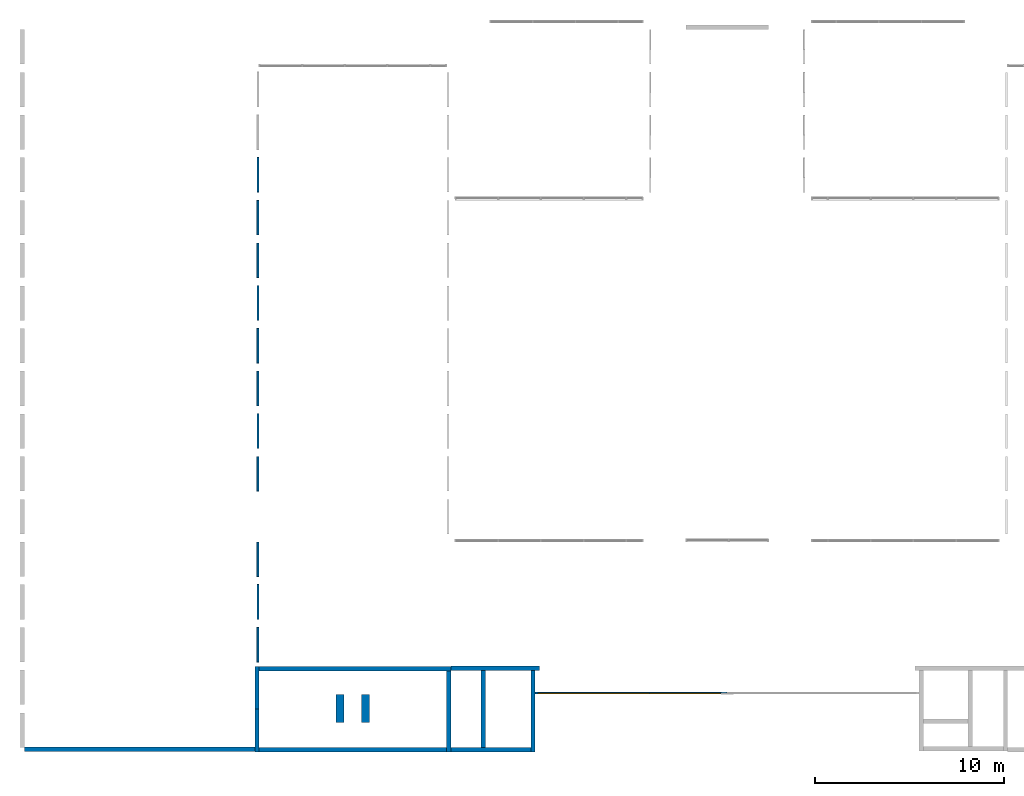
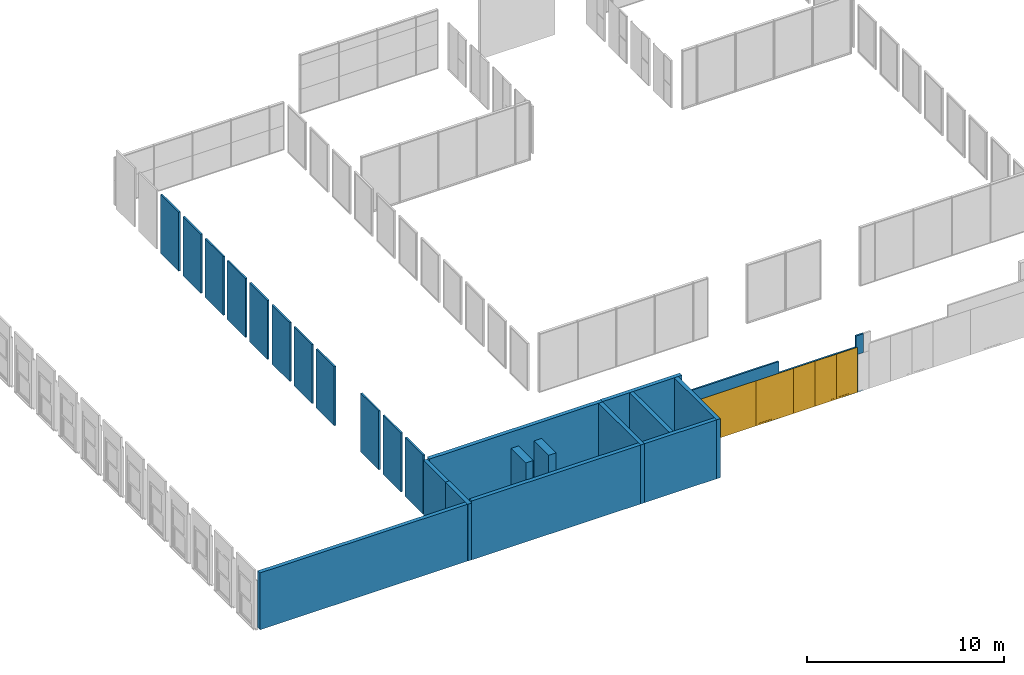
# One storey, part 10 of 15: 24 walls, 5 windows, 7 openings.
"""IFC2X3 building model written with IfcOpenShell, lengths in millimetres."""

from ifc_helpers import new_model, entity, si_unit, converted_unit, derived_unit, direction, frame, frame_2d, origin, origin_2d_with_axis, place, context, subcontext, project, spatial, polyline, rectangle, outline, extrude, clip, bounded_halfspace, source, transform, mapped, material, material_list, layer, layer_set, layer_usage, type_object, type_shapes, element, fill, save


model = new_model("IFC2X3")

# Units and contexts
model_context = context("Model", 3, precision=0.01, world=origin(), true_north=direction((6.12303176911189e-17, 1.0)))
body_context = subcontext(model_context, "Body", "Model", "MODEL_VIEW")
ifc_project = project(units=[si_unit("LENGTHUNIT", "METRE", prefix="MILLI"), si_unit("AREAUNIT", "SQUARE_METRE"), si_unit("VOLUMEUNIT", "CUBIC_METRE"), converted_unit("PLANEANGLEUNIT", "DEGREE", entity("IfcRatioMeasure", 0.0174532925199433), si_unit("PLANEANGLEUNIT", "RADIAN"), dimensions=[0, 0, 0, 0, 0, 0, 0]), si_unit("MASSUNIT", "GRAM", prefix="KILO"), derived_unit("MASSDENSITYUNIT", [(si_unit("MASSUNIT", "GRAM", prefix="KILO"), 1), (si_unit("LENGTHUNIT", "METRE"), -3)]), derived_unit("MOMENTOFINERTIAUNIT", [(si_unit("LENGTHUNIT", "METRE"), 4)]), si_unit("TIMEUNIT", "SECOND"), si_unit("FREQUENCYUNIT", "HERTZ"), si_unit("THERMODYNAMICTEMPERATUREUNIT", "DEGREE_CELSIUS"), derived_unit("THERMALTRANSMITTANCEUNIT", [(si_unit("MASSUNIT", "GRAM", prefix="KILO"), 1), (si_unit("THERMODYNAMICTEMPERATUREUNIT", "KELVIN"), -1), (si_unit("TIMEUNIT", "SECOND"), -3)]), derived_unit("VOLUMETRICFLOWRATEUNIT", [(si_unit("LENGTHUNIT", "METRE"), 3), (si_unit("TIMEUNIT", "SECOND"), -1)]), si_unit("ELECTRICCURRENTUNIT", "AMPERE"), si_unit("ELECTRICVOLTAGEUNIT", "VOLT"), si_unit("POWERUNIT", "WATT"), si_unit("FORCEUNIT", "NEWTON", prefix="KILO"), si_unit("ILLUMINANCEUNIT", "LUX"), si_unit("LUMINOUSFLUXUNIT", "LUMEN"), si_unit("LUMINOUSINTENSITYUNIT", "CANDELA"), derived_unit("USERDEFINED", [(si_unit("MASSUNIT", "GRAM", prefix="KILO"), -1), (si_unit("LENGTHUNIT", "METRE"), -2), (si_unit("TIMEUNIT", "SECOND"), 3), (si_unit("LUMINOUSFLUXUNIT", "LUMEN"), 1)]), derived_unit("LINEARVELOCITYUNIT", [(si_unit("LENGTHUNIT", "METRE"), 1), (si_unit("TIMEUNIT", "SECOND"), -1)]), si_unit("PRESSUREUNIT", "PASCAL"), derived_unit("USERDEFINED", [(si_unit("LENGTHUNIT", "METRE"), -2), (si_unit("MASSUNIT", "GRAM", prefix="KILO"), 1), (si_unit("TIMEUNIT", "SECOND"), -2)]), derived_unit("LINEARFORCEUNIT", [(si_unit("MASSUNIT", "GRAM", prefix="KILO"), 1), (si_unit("LENGTHUNIT", "METRE"), 1), (si_unit("TIMEUNIT", "SECOND"), -2), (si_unit("LENGTHUNIT", "METRE"), -1)]), derived_unit("PLANARFORCEUNIT", [(si_unit("MASSUNIT", "GRAM", prefix="KILO"), 1), (si_unit("LENGTHUNIT", "METRE"), 1), (si_unit("TIMEUNIT", "SECOND"), -2), (si_unit("LENGTHUNIT", "METRE"), -2)])], contexts=[model_context])

# Site, building, storey
site_placement = place(None, frame((10627.5135316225, 21939.0796949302, 0.0)))
site = spatial("IfcSite", under=ifc_project, at=site_placement, Name="Default", CompositionType="ELEMENT")
building_placement = place(site_placement, origin())
building = spatial("IfcBuilding", under=site, at=building_placement, CompositionType="ELEMENT")
storey_placement = place(building_placement, origin())
storey = spatial("IfcBuildingStorey", under=building, at=storey_placement, Name="RDC", CompositionType="ELEMENT", Elevation=0.0)

# Wall, openings, windows
ifc_material_1 = material(Name="Paint - White Lining")
ifc_layer_1 = layer(ifc_material_1, 3.0)
ifc_material_2 = material(Name="Concrete Masonry Units")
ifc_layer_2 = layer(ifc_material_2, 94.0)
ifc_layer_3 = layer(ifc_material_1, 3.0)
ifc_layer_set_1 = layer_set([ifc_layer_1, ifc_layer_2, ifc_layer_3], Name="Basic Wall:Wall-Int 100")
ifc_layer_usage_1 = layer_usage(ifc_layer_set_1, "AXIS2", "NEGATIVE", 50.0)
wall_type_1 = type_object("IfcWallType", Name="Basic Wall:Wall-Int 100", PredefinedType="STANDARD", material=ifc_layer_set_1)
wall_1_placement = place(storey_placement, frame((16419.865600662, -18847.9430237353, 0.0)))
wall_1 = element("IfcWallStandardCase", 1, at=wall_1_placement, inside=storey, type_object=wall_type_1, material=ifc_layer_usage_1, Name="Basic Wall:Wall-Int 100", ObjectType="Basic Wall:Wall-Int 100", context=body_context, shape_type="Clipping", body=[
    clip(extrude(rectangle(XDim=10157.6208677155, YDim=99.9999999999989, at=frame_2d((5078.81043385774, 3.76587649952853e-13), x_axis=(-1.0, 0.0))), origin(), (0.0, 0.0, 1.0), 3530.0), bounded_halfspace(frame((9942.62086771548, 50.0, 3530.0), z_axis=(0.0, 0.0, -1.0), x_axis=(0.0, 1.0, 0.0)), True, frame((9942.62086771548, 50.0, 3530.0)), polyline([(0.0, 0.0), (-226.024865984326, 0.0), (-226.024865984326, -48.3642208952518), (0.0, -48.3642208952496), (0.0, 0.0)]))),
])
opening_1_placement = place(wall_1_placement, origin())
element("IfcOpeningElement", 2, at=opening_1_placement, cuts=wall_1, Name="Basic Wall:Wall-Int 100", ObjectType="Opening", context=body_context, shape_type="SweptSolid", body=[
    extrude(rectangle(XDim=2340.0, YDim=640.000000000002, at=frame_2d((0.0, 0.0), x_axis=(0.0, 1.0))), frame((10159.2417354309, -1474.0, 1172.0), z_axis=(0.0, 1.0, 0.0), x_axis=(-1.0, 0.0, 0.0)), (0.0, 0.0, 1.0), 3048.0),
])
opening_2_placement = place(wall_1_placement, origin())
element("IfcOpeningElement", 3, at=opening_2_placement, cuts=wall_1, Name="Basic Wall:Wall-Int 100", ObjectType="Opening", context=body_context, shape_type="SweptSolid", body=[
    extrude(rectangle(XDim=8034.27016951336, YDim=4520.0, at=frame_2d((6.82121026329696e-13, -2.27373675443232e-12), x_axis=(1.0, 0.0))), frame((7456.59600173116, -202.400000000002, 6832.86491524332), z_axis=(0.0, 1.0, 0.0), x_axis=(0.0, 0.0, 1.0)), (0.0, 0.0, 1.0), 404.800000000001),
])
opening_3_placement = place(wall_1_placement, frame((6060.0, 50.0, 2.0)))
opening_3 = element("IfcOpeningElement", 4, at=opening_3_placement, cuts=wall_1, Name="Entrance windows:Short:1", ObjectType="Opening", context=body_context, shape_type="SweptSolid", body=[
    extrude(rectangle(XDim=2800.0, YDim=2200.0, at=frame_2d((1400.0, 1100.0), x_axis=(1.0, 0.0))), frame((0.0, 0.0, 0.0), z_axis=(0.0, -1.0, 0.0), x_axis=(0.0, 0.0, 1.0)), (0.0, 0.0, 1.0), 100.0),
])
opening_4_placement = place(wall_1_placement, frame((3860.0, 50.0, 2.0)))
opening_4 = element("IfcOpeningElement", 5, at=opening_4_placement, cuts=wall_1, Name="Entrance windows:Entrance windows:1", ObjectType="Opening", context=body_context, shape_type="SweptSolid", body=[
    extrude(rectangle(XDim=2800.0, YDim=3700.0, at=frame_2d((1400.0, 1850.0), x_axis=(1.0, 0.0))), frame((0.0, 0.0, 0.0), z_axis=(0.0, -1.0, 0.0), x_axis=(0.0, 0.0, 1.0)), (0.0, 0.0, 1.0), 100.0),
])
opening_5_placement = place(wall_1_placement, frame((9818.50000000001, 50.0, 2.0)))
opening_5 = element("IfcOpeningElement", 6, at=opening_5_placement, cuts=wall_1, Name="Entrance windows:Door:1", ObjectType="Opening", context=body_context, shape_type="SweptSolid", body=[
    extrude(rectangle(XDim=2800.0, YDim=1250.0, at=frame_2d((1400.0, 625.000000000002), x_axis=(1.0, 0.0))), frame((0.0, 0.0, 0.0), z_axis=(0.0, -1.0, 0.0), x_axis=(0.0, 0.0, 1.0)), (0.0, 0.0, 1.0), 100.0),
])
opening_6_placement = place(wall_1_placement, frame((8566.0, 50.0, 2.0)))
opening_6 = element("IfcOpeningElement", 7, at=opening_6_placement, cuts=wall_1, Name="Entrance windows:Door:1", ObjectType="Opening", context=body_context, shape_type="SweptSolid", body=[
    extrude(rectangle(XDim=2800.0, YDim=1250.0, at=frame_2d((1400.0, 625.000000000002), x_axis=(1.0, 0.0))), frame((0.0, 0.0, 0.0), z_axis=(0.0, -1.0, 0.0), x_axis=(0.0, 0.0, 1.0)), (0.0, 0.0, 1.0), 100.0),
])
opening_7_placement = place(wall_1_placement, frame((7313.0, 50.0, 2.0)))
opening_7 = element("IfcOpeningElement", 8, at=opening_7_placement, cuts=wall_1, Name="Entrance windows:Door:1", ObjectType="Opening", context=body_context, shape_type="SweptSolid", body=[
    extrude(rectangle(XDim=2800.0, YDim=1250.0, at=frame_2d((1400.0, 625.000000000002), x_axis=(1.0, 0.0))), frame((0.0, 0.0, 0.0), z_axis=(0.0, -1.0, 0.0), x_axis=(0.0, 0.0, 1.0)), (0.0, 0.0, 1.0), 100.0),
])
ifc_material_3 = material(Name="Glass")
ifc_material_4 = material(Name="Stainless Steel, Brushed")
ifc_material_list_1 = material_list([ifc_material_3, ifc_material_4])
ifc_material_list_2 = material_list([ifc_material_3, ifc_material_4])
window_style_1 = type_object("IfcWindowStyle", Name="Entrance windows:Entrance windows", ConstructionType="NOTDEFINED", OperationType="NOTDEFINED", ParameterTakesPrecedence=False, Sizeable=False, material=ifc_material_list_2)
shared_shape_1 = source(origin(), body_context, "Body", "SweptSolid", [
    extrude(outline(polyline([(-1750.0, -1300.0), (1750.0, -1300.0), (1750.0, 1300.0), (-1750.0, 1300.0), (-1750.0, -1300.0)]), holes=[polyline([(1747.0, 1297.0), (1747.0, -1297.0), (-1747.0, -1297.0), (-1747.0, 1297.0), (1747.0, 1297.0)])]), frame((1850.0, 70.0, 1400.0), z_axis=(0.0, 1.0, 0.0), x_axis=(1.0, 0.0, 0.0)), (0.0, 0.0, 1.0), 3.0),
    extrude(rectangle(XDim=3.0, YDim=3494.0, at=origin_2d_with_axis()), frame((1850.0, 71.5000000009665, 103.0), z_axis=(0.0, 0.0, 1.0), x_axis=(0.0, 1.0, 0.0)), (0.0, 0.0, 1.0), 2594.0),
    extrude(outline(polyline([(-1750.0, -1300.0), (1750.0, -1300.0), (1750.0, 1300.0), (-1750.0, 1300.0), (-1750.0, -1300.0)]), holes=[polyline([(1747.0, 1297.0), (1747.0, -1297.0), (-1747.0, -1297.0), (-1747.0, 1297.0), (1747.0, 1297.0)])]), frame((1850.0, 94.0, 1400.0), z_axis=(0.0, 1.0, 0.0), x_axis=(1.0, 0.0, 0.0)), (0.0, 0.0, 1.0), 3.0),
    extrude(rectangle(XDim=3.0, YDim=3494.0, at=origin_2d_with_axis()), frame((1850.0, 95.5000000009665, 103.0), z_axis=(0.0, 0.0, 1.0), x_axis=(0.0, 1.0, 0.0)), (0.0, 0.0, 1.0), 2594.0),
    extrude(outline(polyline([(-1850.0, -1400.0), (1850.0, -1400.0), (1850.0, 1400.0), (-1850.0, 1400.0), (-1850.0, -1400.0)]), holes=[polyline([(-1750.0, -1300.0), (-1750.0, 1300.0), (1750.0, 1300.0), (1750.0, -1300.0), (-1750.0, -1300.0)])]), frame((1850.0, 50.0, 1400.0), z_axis=(0.0, 1.0, 0.0), x_axis=(1.0, 0.0, 0.0)), (0.0, 0.0, 1.0), 50.0),
])
type_shapes(window_style_1, [shared_shape_1])
window_1_placement = place(opening_4_placement, frame((0.0, 0.0, 0.0), z_axis=(0.0, 0.0, 1.0), x_axis=(-1.0, 0.0, 0.0)))
window_1 = element("IfcWindow", 9, at=window_1_placement, inside=storey, type_object=window_style_1, material=ifc_material_list_1, Name="Entrance windows:Entrance windows", ObjectType="Entrance windows:Entrance windows", OverallHeight=2800.0, OverallWidth=3700.0, context=body_context, shape_type="MappedRepresentation", body=[
    mapped(shared_shape_1, transform((0.0, 0.0, 0.0), scale=1.0)),
])
fill(opening_4, window_1)
ifc_material_list_3 = material_list([ifc_material_3, ifc_material_4])
ifc_material_list_4 = material_list([ifc_material_3, ifc_material_4])
window_style_2 = type_object("IfcWindowStyle", Name="Entrance windows:Short", ConstructionType="NOTDEFINED", OperationType="NOTDEFINED", ParameterTakesPrecedence=False, Sizeable=False, material=ifc_material_list_4)
shared_shape_2 = source(origin(), body_context, "Body", "SweptSolid", [
    extrude(outline(polyline([(-1000.0, -1300.0), (1000.0, -1300.0), (1000.0, 1300.0), (-1000.0, 1300.0), (-1000.0, -1300.0)]), holes=[polyline([(997.0, 1297.0), (997.0, -1297.0), (-997.0, -1297.0), (-997.0, 1297.0), (997.0, 1297.0)])]), frame((1100.0, 70.0, 1400.0), z_axis=(0.0, 1.0, 0.0), x_axis=(1.0, 0.0, 0.0)), (0.0, 0.0, 1.0), 3.0),
    extrude(rectangle(XDim=3.0, YDim=1994.0, at=frame_2d((-4.21884749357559e-15, 0.0), x_axis=(1.0, 0.0))), frame((1100.0, 71.5000000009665, 103.0), z_axis=(0.0, 0.0, 1.0), x_axis=(0.0, 1.0, 0.0)), (0.0, 0.0, 1.0), 2594.0),
    extrude(outline(polyline([(-1000.0, -1300.0), (1000.0, -1300.0), (1000.0, 1300.0), (-1000.0, 1300.0), (-1000.0, -1300.0)]), holes=[polyline([(997.0, 1297.0), (997.0, -1297.0), (-997.0, -1297.0), (-997.0, 1297.0), (997.0, 1297.0)])]), frame((1100.0, 94.0, 1400.0), z_axis=(0.0, 1.0, 0.0), x_axis=(1.0, 0.0, 0.0)), (0.0, 0.0, 1.0), 3.0),
    extrude(rectangle(XDim=3.0, YDim=1994.0, at=frame_2d((-4.21884749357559e-15, 0.0), x_axis=(1.0, 0.0))), frame((1100.0, 95.5000000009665, 103.0), z_axis=(0.0, 0.0, 1.0), x_axis=(0.0, 1.0, 0.0)), (0.0, 0.0, 1.0), 2594.0),
    extrude(outline(polyline([(-1100.0, -1400.0), (1100.0, -1400.0), (1100.0, 1400.0), (-1100.0, 1400.0), (-1100.0, -1400.0)]), holes=[polyline([(-1000.0, -1300.0), (-1000.0, 1300.0), (1000.0, 1300.0), (1000.0, -1300.0), (-1000.0, -1300.0)])]), frame((1100.0, 50.0, 1400.0), z_axis=(0.0, 1.0, 0.0), x_axis=(1.0, 0.0, 0.0)), (0.0, 0.0, 1.0), 50.0),
])
type_shapes(window_style_2, [shared_shape_2])
window_2_placement = place(opening_3_placement, frame((0.0, 0.0, 0.0), z_axis=(0.0, 0.0, 1.0), x_axis=(-1.0, 0.0, 0.0)))
window_2 = element("IfcWindow", 10, at=window_2_placement, inside=storey, type_object=window_style_2, material=ifc_material_list_3, Name="Entrance windows:Short", ObjectType="Entrance windows:Short", OverallHeight=2800.0, OverallWidth=2200.0, context=body_context, shape_type="MappedRepresentation", body=[
    mapped(shared_shape_2, transform((0.0, 0.0, 0.0), scale=1.0)),
])
fill(opening_3, window_2)
ifc_material_list_5 = material_list([ifc_material_3, ifc_material_4])
ifc_material_list_6 = material_list([ifc_material_3, ifc_material_4])
window_style_3 = type_object("IfcWindowStyle", Name="Entrance windows:Door", ConstructionType="NOTDEFINED", OperationType="NOTDEFINED", ParameterTakesPrecedence=False, Sizeable=False, material=ifc_material_list_6)
shared_shape_3 = source(origin(), body_context, "Body", "SweptSolid", [
    extrude(outline(polyline([(-525.0, -1300.0), (525.0, -1300.0), (525.0, 1300.0), (-525.0, 1300.0), (-525.0, -1300.0)]), holes=[polyline([(522.0, 1297.0), (522.0, -1297.0), (-522.0, -1297.0), (-522.0, 1297.0), (522.0, 1297.0)])]), frame((625.0, 70.0, 1400.0), z_axis=(0.0, 1.0, 0.0), x_axis=(1.0, 0.0, 0.0)), (0.0, 0.0, 1.0), 3.0),
    extrude(rectangle(XDim=3.0, YDim=1044.0, at=frame_2d((-2.1094237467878e-15, 0.0), x_axis=(1.0, 0.0))), frame((625.0, 71.5000000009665, 103.0), z_axis=(0.0, 0.0, 1.0), x_axis=(0.0, 1.0, 0.0)), (0.0, 0.0, 1.0), 2594.0),
    extrude(outline(polyline([(-525.0, -1300.0), (525.0, -1300.0), (525.0, 1300.0), (-525.0, 1300.0), (-525.0, -1300.0)]), holes=[polyline([(522.0, 1297.0), (522.0, -1297.0), (-522.0, -1297.0), (-522.0, 1297.0), (522.0, 1297.0)])]), frame((625.0, 94.0, 1400.0), z_axis=(0.0, 1.0, 0.0), x_axis=(1.0, 0.0, 0.0)), (0.0, 0.0, 1.0), 3.0),
    extrude(rectangle(XDim=3.0, YDim=1044.0, at=origin_2d_with_axis()), frame((625.0, 95.5000000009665, 103.0), z_axis=(0.0, 0.0, 1.0), x_axis=(0.0, 1.0, 0.0)), (0.0, 0.0, 1.0), 2594.0),
    extrude(outline(polyline([(-625.0, -1400.0), (625.0, -1400.0), (625.0, 1400.0), (-625.0, 1400.0), (-625.0, -1400.0)]), holes=[polyline([(-525.0, -1300.0), (-525.0, 1300.0), (525.0, 1300.0), (525.0, -1300.0), (-525.0, -1300.0)])]), frame((625.0, 50.0, 1400.0), z_axis=(0.0, 1.0, 0.0), x_axis=(1.0, 0.0, 0.0)), (0.0, 0.0, 1.0), 50.0),
])
type_shapes(window_style_3, [shared_shape_3])
window_3_placement = place(opening_7_placement, frame((0.0, 0.0, 0.0), z_axis=(0.0, 0.0, 1.0), x_axis=(-1.0, 0.0, 0.0)))
window_3 = element("IfcWindow", 11, at=window_3_placement, inside=storey, type_object=window_style_3, material=ifc_material_list_5, Name="Entrance windows:Door", ObjectType="Entrance windows:Door", OverallHeight=2800.0, OverallWidth=1250.0, context=body_context, shape_type="MappedRepresentation", body=[
    mapped(shared_shape_3, transform((0.0, 0.0, 0.0), scale=1.0)),
])
fill(opening_7, window_3)
ifc_material_list_7 = material_list([ifc_material_3, ifc_material_4])
window_4_placement = place(opening_6_placement, frame((0.0, 0.0, 0.0), z_axis=(0.0, 0.0, 1.0), x_axis=(-1.0, 0.0, 0.0)))
window_4 = element("IfcWindow", 12, at=window_4_placement, inside=storey, type_object=window_style_3, material=ifc_material_list_7, Name="Entrance windows:Door", ObjectType="Entrance windows:Door", OverallHeight=2800.0, OverallWidth=1250.0, context=body_context, shape_type="MappedRepresentation", body=[
    mapped(shared_shape_3, transform((0.0, 0.0, 0.0), scale=1.0)),
])
fill(opening_6, window_4)
ifc_material_list_8 = material_list([ifc_material_3, ifc_material_4])
window_5_placement = place(opening_5_placement, frame((0.0, 0.0, 0.0), z_axis=(0.0, 0.0, 1.0), x_axis=(-1.0, 0.0, 0.0)))
window_5 = element("IfcWindow", 13, at=window_5_placement, inside=storey, type_object=window_style_3, material=ifc_material_list_8, Name="Entrance windows:Door", ObjectType="Entrance windows:Door", OverallHeight=2800.0, OverallWidth=1250.0, context=body_context, shape_type="MappedRepresentation", body=[
    mapped(shared_shape_3, transform((0.0, 0.0, 0.0), scale=1.0)),
])
fill(opening_5, window_5)

# Walls
ifc_layer_usage_2 = layer_usage(ifc_layer_set_1, "AXIS2", "NEGATIVE", 50.0)
wall_2_placement = place(storey_placement, frame((1750.48646837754, 9499.23900473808, 0.0), z_axis=(0.0, 0.0, 1.0), x_axis=(0.0, -1.0, 0.0)))
element("IfcWallStandardCase", 14, at=wall_2_placement, inside=storey, type_object=wall_type_1, material=ifc_layer_usage_2, Name="Basic Wall:Wall-Int 100", ObjectType="Basic Wall:Wall-Int 100", context=body_context, shape_type="SweptSolid", body=[
    extrude(rectangle(XDim=1843.31869966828, YDim=100.0, at=frame_2d((921.659349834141, 0.0), x_axis=(-1.0, 0.0))), origin(), (0.0, 0.0, 1.0), 3660.0),
])
ifc_layer_usage_3 = layer_usage(ifc_layer_set_1, "AXIS2", "NEGATIVE", 50.0)
wall_3_placement = place(storey_placement, frame((1748.48646837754, 7225.9203050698, 0.0), z_axis=(0.0, 0.0, 1.0), x_axis=(0.0, -1.0, 0.0)))
element("IfcWallStandardCase", 15, at=wall_3_placement, inside=storey, type_object=wall_type_1, material=ifc_layer_usage_3, Name="Basic Wall:Wall-Int 100", ObjectType="Basic Wall:Wall-Int 100", context=body_context, shape_type="SweptSolid", body=[
    extrude(rectangle(XDim=1830.0, YDim=100.0, at=frame_2d((914.999999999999, 0.0), x_axis=(-1.0, 0.0))), origin(), (0.0, 0.0, 1.0), 3660.0),
])
ifc_layer_usage_4 = layer_usage(ifc_layer_set_1, "AXIS2", "NEGATIVE", 50.0)
wall_4_placement = place(storey_placement, frame((1748.48646837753, 4965.9203050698, 0.0), z_axis=(0.0, 0.0, 1.0), x_axis=(0.0, -1.0, 0.0)))
element("IfcWallStandardCase", 16, at=wall_4_placement, inside=storey, type_object=wall_type_1, material=ifc_layer_usage_4, Name="Basic Wall:Wall-Int 100", ObjectType="Basic Wall:Wall-Int 100", context=body_context, shape_type="SweptSolid", body=[
    extrude(rectangle(XDim=1830.0, YDim=100.0, at=frame_2d((914.999999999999, 0.0), x_axis=(-1.0, 0.0))), origin(), (0.0, 0.0, 1.0), 3660.0),
])
ifc_layer_usage_5 = layer_usage(ifc_layer_set_1, "AXIS2", "NEGATIVE", 50.0)
wall_5_placement = place(storey_placement, frame((1750.48646837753, 2719.23900473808, 0.0), z_axis=(0.0, 0.0, 1.0), x_axis=(0.0, -1.0, 0.0)))
element("IfcWallStandardCase", 17, at=wall_5_placement, inside=storey, type_object=wall_type_1, material=ifc_layer_usage_5, Name="Basic Wall:Wall-Int 100", ObjectType="Basic Wall:Wall-Int 100", context=body_context, shape_type="SweptSolid", body=[
    extrude(rectangle(XDim=1843.31869966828, YDim=100.0, at=frame_2d((921.659349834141, 0.0), x_axis=(-1.0, 0.0))), origin(), (0.0, 0.0, 1.0), 3660.0),
])
ifc_layer_usage_6 = layer_usage(ifc_layer_set_1, "AXIS2", "NEGATIVE", 50.0)
wall_6_placement = place(storey_placement, frame((1748.48646837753, 445.920305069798, 0.0), z_axis=(0.0, 0.0, 1.0), x_axis=(0.0, -1.0, 0.0)))
element("IfcWallStandardCase", 18, at=wall_6_placement, inside=storey, type_object=wall_type_1, material=ifc_layer_usage_6, Name="Basic Wall:Wall-Int 100", ObjectType="Basic Wall:Wall-Int 100", context=body_context, shape_type="SweptSolid", body=[
    extrude(rectangle(XDim=1830.0, YDim=100.0, at=frame_2d((914.999999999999, 0.0), x_axis=(-1.0, 0.0))), origin(), (0.0, 0.0, 1.0), 3660.0),
])
ifc_layer_usage_7 = layer_usage(ifc_layer_set_1, "AXIS2", "NEGATIVE", 50.0)
wall_7_placement = place(storey_placement, frame((1748.48646837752, -1814.0796949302, 0.0), z_axis=(0.0, 0.0, 1.0), x_axis=(0.0, -1.0, 0.0)))
element("IfcWallStandardCase", 19, at=wall_7_placement, inside=storey, type_object=wall_type_1, material=ifc_layer_usage_7, Name="Basic Wall:Wall-Int 100", ObjectType="Basic Wall:Wall-Int 100", context=body_context, shape_type="SweptSolid", body=[
    extrude(rectangle(XDim=1830.0, YDim=100.0, at=frame_2d((914.999999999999, 0.0), x_axis=(-1.0, 0.0))), origin(), (0.0, 0.0, 1.0), 3660.0),
])
ifc_layer_usage_8 = layer_usage(ifc_layer_set_1, "AXIS2", "NEGATIVE", 50.0)
wall_8_placement = place(storey_placement, frame((1750.48646837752, -4060.76099526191, 0.0), z_axis=(0.0, 0.0, 1.0), x_axis=(0.0, -1.0, 0.0)))
element("IfcWallStandardCase", 20, at=wall_8_placement, inside=storey, type_object=wall_type_1, material=ifc_layer_usage_8, Name="Basic Wall:Wall-Int 100", ObjectType="Basic Wall:Wall-Int 100", context=body_context, shape_type="SweptSolid", body=[
    extrude(rectangle(XDim=1843.31869966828, YDim=100.0, at=frame_2d((921.659349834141, 0.0), x_axis=(-1.0, 0.0))), origin(), (0.0, 0.0, 1.0), 3660.0),
])
ifc_layer_usage_9 = layer_usage(ifc_layer_set_1, "AXIS2", "NEGATIVE", 50.0)
wall_9_placement = place(storey_placement, frame((1748.48646837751, -6334.0796949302, 0.0), z_axis=(0.0, 0.0, 1.0), x_axis=(0.0, -1.0, 0.0)))
element("IfcWallStandardCase", 21, at=wall_9_placement, inside=storey, type_object=wall_type_1, material=ifc_layer_usage_9, Name="Basic Wall:Wall-Int 100", ObjectType="Basic Wall:Wall-Int 100", context=body_context, shape_type="SweptSolid", body=[
    extrude(rectangle(XDim=1830.0, YDim=100.0, at=frame_2d((914.999999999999, 0.0), x_axis=(-1.0, 0.0))), origin(), (0.0, 0.0, 1.0), 3660.0),
])
ifc_layer_usage_10 = layer_usage(ifc_layer_set_1, "AXIS2", "NEGATIVE", 50.0)
wall_10_placement = place(storey_placement, frame((1748.48646837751, -10854.0796949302, 0.0), z_axis=(0.0, 0.0, 1.0), x_axis=(0.0, -1.0, 0.0)))
element("IfcWallStandardCase", 22, at=wall_10_placement, inside=storey, type_object=wall_type_1, material=ifc_layer_usage_10, Name="Basic Wall:Wall-Int 100", ObjectType="Basic Wall:Wall-Int 100", context=body_context, shape_type="SweptSolid", body=[
    extrude(rectangle(XDim=1830.0, YDim=100.0, at=frame_2d((914.999999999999, 0.0), x_axis=(-1.0, 0.0))), origin(), (0.0, 0.0, 1.0), 3660.0),
])
ifc_layer_usage_11 = layer_usage(ifc_layer_set_1, "AXIS2", "NEGATIVE", 50.0)
wall_11_placement = place(storey_placement, frame((1750.4864683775, -13100.7609952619, 0.0), z_axis=(0.0, 0.0, 1.0), x_axis=(0.0, -1.0, 0.0)))
element("IfcWallStandardCase", 23, at=wall_11_placement, inside=storey, type_object=wall_type_1, material=ifc_layer_usage_11, Name="Basic Wall:Wall-Int 100", ObjectType="Basic Wall:Wall-Int 100", context=body_context, shape_type="SweptSolid", body=[
    extrude(rectangle(XDim=1843.31869966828, YDim=100.0, at=frame_2d((921.659349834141, 0.0), x_axis=(-1.0, 0.0))), origin(), (0.0, 0.0, 1.0), 3660.0),
])
ifc_layer_usage_12 = layer_usage(ifc_layer_set_1, "AXIS2", "NEGATIVE", 50.0)
wall_12_placement = place(storey_placement, frame((1748.4864683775, -15374.0796949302, 0.0), z_axis=(0.0, 0.0, 1.0), x_axis=(0.0, -1.0, 0.0)))
element("IfcWallStandardCase", 24, at=wall_12_placement, inside=storey, type_object=wall_type_1, material=ifc_layer_usage_12, Name="Basic Wall:Wall-Int 100", ObjectType="Basic Wall:Wall-Int 100", context=body_context, shape_type="SweptSolid", body=[
    extrude(rectangle(XDim=1830.0, YDim=100.0, at=frame_2d((914.999999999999, 0.0), x_axis=(-1.0, 0.0))), origin(), (0.0, 0.0, 1.0), 3660.0),
])
ifc_layer_4 = layer(ifc_material_1, 15.0)
ifc_material_5 = material(Name="Concrete - Precast Concrete - 35 MPa")
ifc_layer_5 = layer(ifc_material_5, 400.0)
ifc_layer_6 = layer(ifc_material_1, 15.0)
ifc_layer_set_2 = layer_set([ifc_layer_4, ifc_layer_5, ifc_layer_6], Name="Basic Wall:Mur430PentureBlanche")
ifc_layer_usage_13 = layer_usage(ifc_layer_set_2, "AXIS2", "NEGATIVE", 215.0)
wall_type_2 = type_object("IfcWallType", Name="Basic Wall:Mur430PentureBlanche", PredefinedType="STANDARD", material=ifc_layer_set_2)
wall_13_placement = place(storey_placement, frame((6095.06645789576, -18920.8001977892, 0.0), z_axis=(0.0, 0.0, 1.0), x_axis=(0.0, -1.0, 0.0)))
element("IfcWallStandardCase", 25, at=wall_13_placement, inside=storey, type_object=wall_type_2, material=ifc_layer_usage_13, Name="Basic Wall:Mur430PentureBlanche", ObjectType="Basic Wall:Mur430PentureBlanche", context=body_context, shape_type="SweptSolid", body=[
    extrude(rectangle(XDim=1490.00177328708, YDim=430.0, at=frame_2d((745.000886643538, 0.0), x_axis=(-1.0, 0.0))), origin(), (0.0, 0.0, 1.0), 3660.0),
])
ifc_layer_usage_14 = layer_usage(ifc_layer_set_2, "AXIS2", "NEGATIVE", 215.0)
wall_14_placement = place(storey_placement, frame((7440.06857035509, -18920.8001977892, 0.0), z_axis=(0.0, 0.0, 1.0), x_axis=(0.0, -1.0, 0.0)))
element("IfcWallStandardCase", 26, at=wall_14_placement, inside=storey, type_object=wall_type_2, material=ifc_layer_usage_14, Name="Basic Wall:Mur430PentureBlanche", ObjectType="Basic Wall:Mur430PentureBlanche", context=body_context, shape_type="SweptSolid", body=[
    extrude(rectangle(XDim=1490.00177328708, YDim=430.0, at=frame_2d((745.000886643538, 0.0), x_axis=(-1.0, 0.0))), origin(), (0.0, 0.0, 1.0), 3660.0),
])
ifc_layer_7 = layer(ifc_material_1, 15.0)
ifc_layer_8 = layer(ifc_material_5, 200.0)
ifc_layer_9 = layer(ifc_material_1, 15.0)
ifc_layer_set_3 = layer_set([ifc_layer_7, ifc_layer_8, ifc_layer_9], Name="Basic Wall:Mur200PentureBlanche 2")
ifc_layer_usage_15 = layer_usage(ifc_layer_set_3, "AXIS2", "NEGATIVE", 115.0)
wall_type_3 = type_object("IfcWallType", Name="Basic Wall:Mur200PentureBlanche 2", PredefinedType="STANDARD", material=ifc_layer_set_3)
wall_15_placement = place(storey_placement, frame((1697.48646837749, -21954.0796949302, 0.0), z_axis=(0.0, 0.0, 1.0), x_axis=(0.0, 1.0, 0.0)))
element("IfcWallStandardCase", 27, at=wall_15_placement, inside=storey, type_object=wall_type_3, material=ifc_layer_usage_15, Name="Basic Wall:Mur200PentureBlanche 2", ObjectType="Basic Wall:Mur200PentureBlanche 2", context=body_context, shape_type="SweptSolid", body=[
    extrude(rectangle(XDim=2274.99999999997, YDim=230.0, at=frame_2d((1137.49999999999, -4.2632564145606e-14), x_axis=(-1.0, 0.0))), origin(), (0.0, 0.0, 1.0), 3530.0),
])
ifc_layer_usage_16 = layer_usage(ifc_layer_set_3, "AXIS2", "POSITIVE", -115.0)
wall_16_placement = place(storey_placement, frame((1695.48646837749, -19679.0796949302, 0.0), z_axis=(0.0, 0.0, 1.0), x_axis=(0.0, 1.0, 0.0)))
element("IfcWallStandardCase", 28, at=wall_16_placement, inside=storey, type_object=wall_type_3, material=ifc_layer_usage_16, Name="Basic Wall:Mur200PentureBlanche 2", ObjectType="Basic Wall:Mur200PentureBlanche 2", context=body_context, shape_type="SweptSolid", body=[
    extrude(rectangle(XDim=2239.99999999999, YDim=230.0, at=frame_2d((1120.0, -7.8159700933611e-14), x_axis=(-1.0, 0.0))), origin(), (0.0, 0.0, 1.0), 3530.0),
])
ifc_layer_usage_17 = layer_usage(ifc_layer_set_3, "AXIS2", "POSITIVE", -115.0)
wall_17_placement = place(storey_placement, frame((1810.4864683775, -17554.0796949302, 0.0)))
element("IfcWallStandardCase", 29, at=wall_17_placement, inside=storey, type_object=wall_type_3, material=ifc_layer_usage_17, Name="Basic Wall:Mur200PentureBlanche 2", ObjectType="Basic Wall:Mur200PentureBlanche 2", context=body_context, shape_type="SweptSolid", body=[
    extrude(rectangle(XDim=10152.0, YDim=230.0, at=frame_2d((5076.0, 3.19744231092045e-13), x_axis=(-1.0, 0.0))), origin(), (0.0, 0.0, 1.0), 3660.0),
])
ifc_layer_usage_18 = layer_usage(ifc_layer_set_3, "AXIS2", "POSITIVE", -115.0)
wall_18_placement = place(storey_placement, frame((11847.4864683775, -17669.0796949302, 0.0), z_axis=(0.0, 0.0, 1.0), x_axis=(0.0, -1.0, 0.0)))
element("IfcWallStandardCase", 30, at=wall_18_placement, inside=storey, type_object=wall_type_3, material=ifc_layer_usage_18, Name="Basic Wall:Mur200PentureBlanche 2", ObjectType="Basic Wall:Mur200PentureBlanche 2", context=body_context, shape_type="SweptSolid", body=[
    extrude(rectangle(XDim=4284.99999999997, YDim=230.0, at=frame_2d((2142.49999999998, 1.27897692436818e-13), x_axis=(-1.0, 0.0))), origin(), (0.0, 0.0, 1.0), 3660.0),
])
ifc_layer_usage_19 = layer_usage(ifc_layer_set_3, "AXIS2", "NEGATIVE", 115.0)
wall_19_placement = place(storey_placement, frame((16304.865600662, -17654.0796949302, 0.0), z_axis=(0.0, 0.0, 1.0), x_axis=(0.0, -1.0, 0.0)))
element("IfcWallStandardCase", 31, at=wall_19_placement, inside=storey, type_object=wall_type_3, material=ifc_layer_usage_19, Name="Basic Wall:Mur200PentureBlanche 2", ObjectType="Basic Wall:Mur200PentureBlanche 2", context=body_context, shape_type="SweptSolid", body=[
    extrude(rectangle(XDim=4300.0, YDim=230.0, at=frame_2d((2150.0, -1.4210854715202e-14), x_axis=(-1.0, 0.0))), origin(), (0.0, 0.0, 1.0), 3660.0),
])
ifc_layer_usage_20 = layer_usage(ifc_layer_set_3, "AXIS2", "NEGATIVE", 115.0)
wall_20_placement = place(storey_placement, frame((16650.0748506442, -17539.0796949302, 0.0), z_axis=(0.0, 0.0, 1.0), x_axis=(-1.0, 0.0, 0.0)))
element("IfcWallStandardCase", 32, at=wall_20_placement, inside=storey, type_object=wall_type_3, material=ifc_layer_usage_20, Name="Basic Wall:Mur200PentureBlanche 2", ObjectType="Basic Wall:Mur200PentureBlanche 2", context=body_context, shape_type="SweptSolid", body=[
    extrude(rectangle(XDim=4687.58838226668, YDim=230.0, at=frame_2d((2343.79419113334, 3.62376795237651e-13), x_axis=(-1.0, 0.0))), origin(), (0.0, 0.0, 1.0), 3660.0),
])
ifc_layer_usage_21 = layer_usage(ifc_layer_set_3, "AXIS2", "POSITIVE", -115.0)
wall_21_placement = place(storey_placement, frame((13672.4864683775, -17654.0796949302, 0.0), z_axis=(0.0, 0.0, 1.0), x_axis=(0.0, -1.0, 0.0)))
element("IfcWallStandardCase", 33, at=wall_21_placement, inside=storey, type_object=wall_type_3, material=ifc_layer_usage_21, Name="Basic Wall:Mur200PentureBlanche 2", ObjectType="Basic Wall:Mur200PentureBlanche 2", context=body_context, shape_type="SweptSolid", body=[
    extrude(rectangle(XDim=4070.0, YDim=230.0, at=frame_2d((2035.0, -9.9475983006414e-14), x_axis=(-1.0, 0.0))), origin(), (0.0, 0.0, 1.0), 3660.0),
])
ifc_layer_usage_22 = layer_usage(ifc_layer_set_3, "AXIS2", "POSITIVE", -115.0)
wall_22_placement = place(storey_placement, frame((16189.865600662, -21839.0796949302, 0.0), z_axis=(0.0, 0.0, 1.0), x_axis=(-1.0, 0.0, 0.0)))
element("IfcWallStandardCase", 34, at=wall_22_placement, inside=storey, type_object=wall_type_3, material=ifc_layer_usage_22, Name="Basic Wall:Mur200PentureBlanche 2", ObjectType="Basic Wall:Mur200PentureBlanche 2", context=body_context, shape_type="SweptSolid", body=[
    extrude(rectangle(XDim=4227.37913228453, YDim=230.0, at=frame_2d((2113.68956614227, 1.63424829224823e-13), x_axis=(-1.0, 0.0))), origin(), (0.0, 0.0, 1.0), 3660.0),
])
ifc_layer_usage_23 = layer_usage(ifc_layer_set_3, "AXIS2", "NEGATIVE", 115.0)
wall_23_placement = place(storey_placement, frame((11732.4864683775, -21839.0796949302, 0.0), z_axis=(0.0, 0.0, 1.0), x_axis=(-1.0, 0.0, 0.0)))
element("IfcWallStandardCase", 35, at=wall_23_placement, inside=storey, type_object=wall_type_3, material=ifc_layer_usage_23, Name="Basic Wall:Mur200PentureBlanche 2", ObjectType="Basic Wall:Mur200PentureBlanche 2", context=body_context, shape_type="SweptSolid", body=[
    extrude(rectangle(XDim=9920.0, YDim=230.0, at=frame_2d((4960.0, -4.12114786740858e-13), x_axis=(-1.0, 0.0))), origin(), (0.0, 0.0, 1.0), 3660.0),
])
ifc_layer_usage_24 = layer_usage(ifc_layer_set_3, "AXIS2", "NEGATIVE", 115.0)
wall_24_placement = place(storey_placement, frame((-10616.401738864, -21824.0796949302, 0.0)))
element("IfcWallStandardCase", 36, at=wall_24_placement, inside=storey, type_object=wall_type_3, material=ifc_layer_usage_24, Name="Basic Wall:Mur200PentureBlanche 2", ObjectType="Basic Wall:Mur200PentureBlanche 2", context=body_context, shape_type="Clipping", body=[
    clip(extrude(rectangle(XDim=12198.8882072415, YDim=230.0, at=frame_2d((6099.44410362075, -1.63424829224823e-13), x_axis=(-1.0, 0.0))), origin(), (0.0, 0.0, 1.0), 3530.0), bounded_halfspace(frame((12193.8882072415, 100.0, 3530.0), z_axis=(0.0, 0.0, -1.0), x_axis=(0.0, 1.0, 0.0)), True, frame((12193.8882072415, 100.0, 3530.0)), polyline([(0.0, 0.0), (0.0, 15.0), (-12193.8882072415, 15.0), (-12193.8882072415, 0.0), (0.0, 0.0)]))),
])

save(model, "model.ifc")
